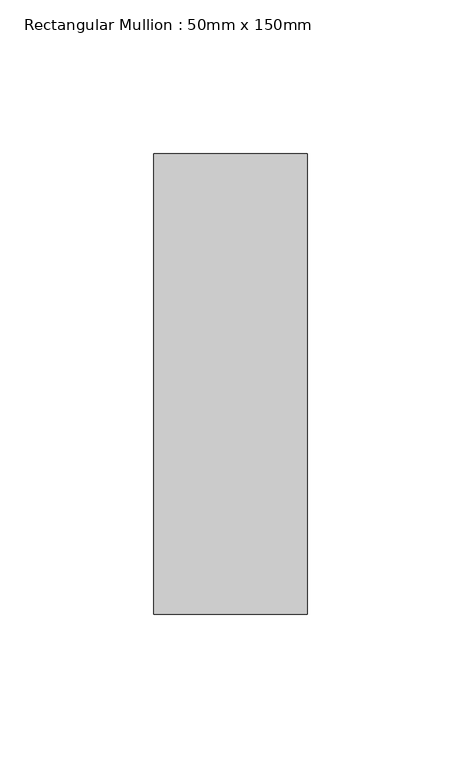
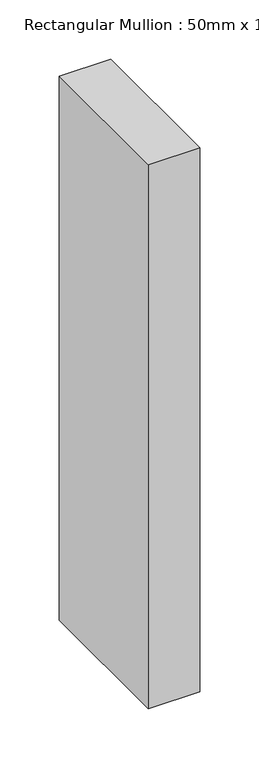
"""IFC4 building model written with IfcOpenShell, lengths in millimetres: member geometry, Rectangular Mullion : 50mm x 150mm."""

import ifcopenshell
import ifcopenshell.guid

model = None  # the IFC model being written
_history = None  # IfcOwnerHistory: only IFC2X3 demands one
_inside = {}  # id of a spatial element -> (the spatial element, [elements in it])
_under = {}  # id of a project, library or spatial element -> (it, [spatial elements below it])
_declared = {}  # id of a project -> (the project, [libraries it declares])
_typed = {}  # id of a type object -> (the type object, [elements of that type])
_made_of = {}  # id of a material, layer set ... -> (it, [elements and type objects made of it])


def new_model(schema):
    """Start an empty IFC model of exactly this schema.

    Asked for "IFC4X3", IfcOpenShell would pick the latest addendum, in which some entities
    have other attributes; the version numbers below select the first issue.
    IFC2X3 requires an IfcOwnerHistory on every rooted entity: one is made here for all.
    """
    global model, _history
    if schema == "IFC4X3":
        model = ifcopenshell.file(schema_version=(4, 3, 0, 0))
    else:
        model = ifcopenshell.file(schema=schema)
    _inside.clear()
    _under.clear()
    _declared.clear()
    _typed.clear()
    _made_of.clear()
    _history = None
    if model.schema == "IFC2X3":
        org = make("IfcOrganization", Name="unknown")
        user = make(
            "IfcPersonAndOrganization",
            ThePerson=make("IfcPerson", FamilyName="unknown"),
            TheOrganization=org,
        )
        app = make(
            "IfcApplication",
            ApplicationDeveloper=org,
            Version="unknown",
            ApplicationFullName="unknown",
            ApplicationIdentifier="unknown",
        )
        _history = make(
            "IfcOwnerHistory",
            OwningUser=user,
            OwningApplication=app,
            ChangeAction="ADDED",
            CreationDate=0,
        )
    return model


def make(cls, **values):
    """One entity of the class cls with the attributes given. An attribute that is None is left unset."""
    return model.create_entity(
        cls, **{name: value for name, value in values.items() if value is not None}
    )


def rooted(cls, **values):
    """An entity with a GlobalId (a new one), such as an element, a storey or a relation."""
    return make(cls, GlobalId=ifcopenshell.guid.new(), OwnerHistory=_history, **values)


def si_unit(unit_type, name, prefix=None):
    """IfcSIUnit, for example si_unit("LENGTHUNIT", "METRE", prefix="MILLI")."""
    return make("IfcSIUnit", UnitType=unit_type, Prefix=prefix, Name=name)


def assignment(units):
    """IfcUnitAssignment: the units of a project."""
    return None if units is None else make("IfcUnitAssignment", Units=units)


def point(xyz):
    """IfcCartesianPoint."""
    return None if xyz is None else make("IfcCartesianPoint", Coordinates=xyz)


def direction(xyz):
    """IfcDirection."""
    return None if xyz is None else make("IfcDirection", DirectionRatios=xyz)


def frame(location, z_axis=None, x_axis=None):
    """IfcAxis2Placement3D, a coordinate frame: its origin and axes. An axis left out is left unset."""
    return make(
        "IfcAxis2Placement3D",
        Location=point(location),
        Axis=direction(z_axis),
        RefDirection=direction(x_axis),
    )


def origin():
    """The frame at (0, 0, 0) with its axes left unset."""
    return frame((0.0, 0.0, 0.0))


def place(relative_to, where):
    """IfcLocalPlacement: puts the frame where relative to a parent placement (None: the world)."""
    return make(
        "IfcLocalPlacement", PlacementRelTo=relative_to, RelativePlacement=where
    )


def context(
    kind, dimensions, precision=None, world=None, true_north=None, identifier=None
):
    """IfcGeometricRepresentationContext, for example the 3D "Model" context."""
    return make(
        "IfcGeometricRepresentationContext",
        ContextIdentifier=identifier,
        ContextType=kind,
        CoordinateSpaceDimension=dimensions,
        Precision=precision,
        WorldCoordinateSystem=world,
        TrueNorth=true_north,
    )


def project(units=None, contexts=None):
    """IfcProject with its units and contexts."""
    return rooted(
        "IfcProject",
        Name="project",
        RepresentationContexts=contexts,
        UnitsInContext=assignment(units),
    )


def spatial(cls, under=None, at=None, **own):
    """A site, building, storey or space (cls), placed at a placement, below another one or the project."""
    s = rooted(cls, ObjectPlacement=at, **own)
    if under is not None:
        _under.setdefault(under.id(), (under, []))[1].append(s)
    return s


def polyline(points):
    """IfcPolyline through the points."""
    return make("IfcPolyline", Points=[point(p) for p in points])


def outline(outer, holes=None, kind="AREA"):
    """IfcArbitraryClosedProfileDef: a profile drawn as a closed curve; with holes, ...WithVoids."""
    if holes is None:
        return make("IfcArbitraryClosedProfileDef", ProfileType=kind, OuterCurve=outer)
    return make(
        "IfcArbitraryProfileDefWithVoids",
        ProfileType=kind,
        OuterCurve=outer,
        InnerCurves=holes,
    )


def extrude(swept, where, along, depth):
    """IfcExtrudedAreaSolid: the profile swept, set in the frame where, extruded along a direction by depth."""
    return make(
        "IfcExtrudedAreaSolid",
        SweptArea=swept,
        Position=where,
        ExtrudedDirection=direction(along),
        Depth=depth,
    )


def shape(context_of_items, identifier, shape_type, items):
    """IfcShapeRepresentation: the items that make up one representation, for example the "Body"."""
    return make(
        "IfcShapeRepresentation",
        ContextOfItems=context_of_items,
        RepresentationIdentifier=identifier,
        RepresentationType=shape_type,
        Items=items,
    )


def source(mapping_origin, context_of_items, identifier, shape_type, items):
    """IfcRepresentationMap: a shape defined once, which mapped items show again and again."""
    return make(
        "IfcRepresentationMap",
        MappingOrigin=mapping_origin,
        MappedRepresentation=shape(context_of_items, identifier, shape_type, items),
    )


def transform(
    local_origin,
    x_axis=None,
    y_axis=None,
    z_axis=None,
    scale=None,
    scale2=None,
    scale3=None,
    uniform=True,
):
    """IfcCartesianTransformationOperator3D, or its non-uniform kind. x_axis, y_axis, z_axis: its Axis1, 2, 3."""
    if uniform:
        return make(
            "IfcCartesianTransformationOperator3D",
            Axis1=direction(x_axis),
            Axis2=direction(y_axis),
            LocalOrigin=point(local_origin),
            Scale=scale,
            Axis3=direction(z_axis),
        )
    return make(
        "IfcCartesianTransformationOperator3DnonUniform",
        Axis1=direction(x_axis),
        Axis2=direction(y_axis),
        LocalOrigin=point(local_origin),
        Scale=scale,
        Axis3=direction(z_axis),
        Scale2=scale2,
        Scale3=scale3,
    )


def mapped(mapping_source, mapping_target):
    """IfcMappedItem: shows the shape of a source again, moved by a transform."""
    return make(
        "IfcMappedItem", MappingSource=mapping_source, MappingTarget=mapping_target
    )


def made_of(thing, what):
    """Note that an element or type object is made of a material, layer set ...; save() writes the relation."""
    if what is not None:
        _made_of.setdefault(what.id(), (what, []))[1].append(thing)
    return thing


def element(
    cls,
    number,
    at=None,
    inside=None,
    cuts=None,
    type_object=None,
    material=None,
    context=None,
    identifier="Body",
    shape_type=None,
    held_by="IfcProductDefinitionShape",
    body=None,
    shapes=None,
    **own,
):
    """One element of the class cls, such as IfcWall. Its Tag is "e" and its number.

    at: its placement. inside: the storey or other place that contains it. cuts: it is an
    opening in that element (IfcRelVoidsElement). A single representation is given by context,
    identifier, shape_type and body (its items); several are given by shapes. held_by: the class
    of the entity that holds the representations. save() writes the other relations.
    """
    e = rooted(cls, Tag="e%d" % number, ObjectPlacement=at, **own)
    if body is not None:
        shapes = [shape(context, identifier, shape_type, body)]
    if shapes is not None:
        e.Representation = make(held_by, Representations=shapes)
    if inside is not None:
        _inside.setdefault(inside.id(), (inside, []))[1].append(e)
    if cuts is not None:
        rooted(
            "IfcRelVoidsElement", RelatingBuildingElement=cuts, RelatedOpeningElement=e
        )
    if type_object is not None:
        _typed.setdefault(type_object.id(), (type_object, []))[1].append(e)
    return made_of(e, material)


def aggregate(whole, parts):
    """IfcRelAggregates: a whole, such as a stair, and the parts it consists of."""
    return rooted("IfcRelAggregates", RelatingObject=whole, RelatedObjects=parts)


def save(model, path):
    """Write the relations noted so far, then the file.

    IfcRelAggregates (storeys below a building ...), IfcRelContainedInSpatialStructure (elements
    in a storey), IfcRelDefinesByType, IfcRelAssociatesMaterial and IfcRelDeclares: one each for
    every whole, place, type object, material and project.
    """
    for whole, parts in _under.values():
        aggregate(whole, parts)
    for where, things in _inside.values():
        rooted(
            "IfcRelContainedInSpatialStructure",
            RelatedElements=things,
            RelatingStructure=where,
        )
    for kind, things in _typed.values():
        rooted("IfcRelDefinesByType", RelatedObjects=things, RelatingType=kind)
    for what, things in _made_of.values():
        rooted("IfcRelAssociatesMaterial", RelatedObjects=things, RelatingMaterial=what)
    for by, libraries in _declared.values():
        rooted("IfcRelDeclares", RelatingContext=by, RelatedDefinitions=libraries)
    model.write(path)


def rectangular_mullion_50mm_x_150mm_ca11c66a(model_context):
    return source(origin(), model_context, "Body", "SweptSolid", [
        extrude(outline(polyline([(25.0, 75.0), (25.0, -75.0), (-25.0, -75.0), (-25.0, 75.0), (25.0, 75.0)])), frame((0.0, 0.0, -560.0), z_axis=(0.0, 0.0, 1.0), x_axis=(1.0, 0.0, 0.0)), (0.0, 0.0, 1.0), 560.0),
    ])


if __name__ == "__main__":
    model = new_model("IFC4")
    model_context = context("Model", 3, world=origin())
    ifc_project = project(units=[si_unit("LENGTHUNIT", "METRE", prefix="MILLI")], contexts=[model_context])
    site = spatial("IfcSite", under=ifc_project)
    building = spatial("IfcBuilding", under=site)
    placement = place(None, origin())
    rectangular_mullion_50mm_x_150mm_shape = rectangular_mullion_50mm_x_150mm_ca11c66a(model_context)
    element("IfcMember", 1, ObjectType="Rectangular Mullion : 50mm x 150mm", at=placement, inside=building, context=model_context, shape_type="MappedRepresentation", body=[
        mapped(rectangular_mullion_50mm_x_150mm_shape, transform((0.0, 0.0, 0.0), x_axis=(1.0, 0.0, 0.0), y_axis=(0.0, 1.0, 0.0), z_axis=(0.0, 0.0, 1.0))),
    ])
    save(model, "model.ifc")
